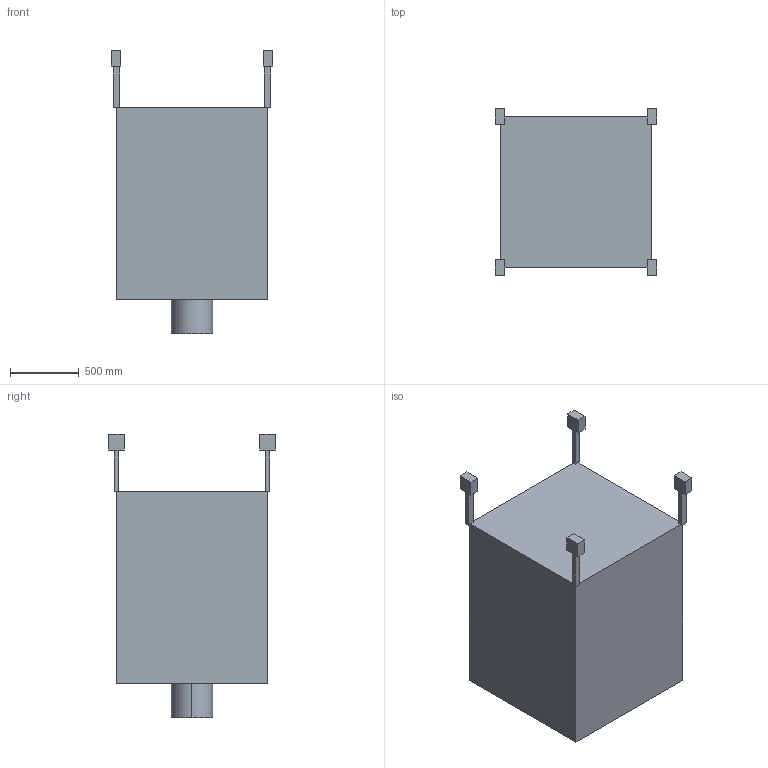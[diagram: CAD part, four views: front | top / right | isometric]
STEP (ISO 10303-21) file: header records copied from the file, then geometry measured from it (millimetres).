
FILE_DESCRIPTION (( 'STEP AP203' ), '1' );
FILE_NAME ('FD03.step', '2026-11-13T17:15:43', ( '' ), ( '' ), 'SwSTEP 2.0', 'SolidWorks 2026', '' );
FILE_SCHEMA (( 'CONFIG_CONTROL_DESIGN' ));
Length unit declared in the file: millimetre
Products named in the file (1): FD03
Bounding box: 1176 x 1211 x 2065 mm (x, y, z)
Volume: 1717225658.7 mm3; surface area: 9408871.1 mm2
Topology: 10 solids, 10 shells, 58 faces, 114 edges, 76 vertices
Faces by surface type: plane 56, cylinder 2
Entity records: 1521 total; most frequent: CARTESIAN_POINT 249, DIRECTION 236, ORIENTED_EDGE 228, EDGE_CURVE 114, VECTOR 110, LINE 110, VERTEX_POINT 76, AXIS2_PLACEMENT_3D 63
